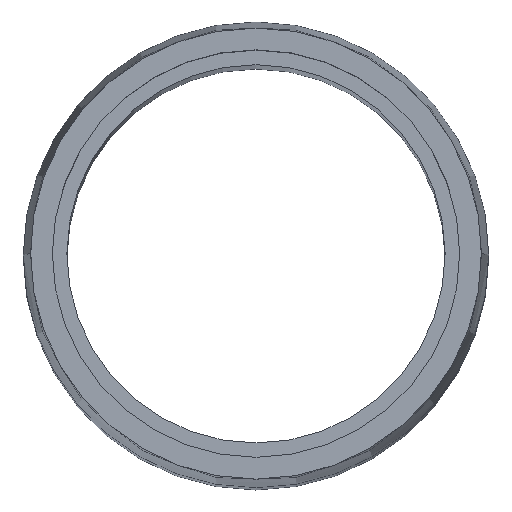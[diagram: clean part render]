
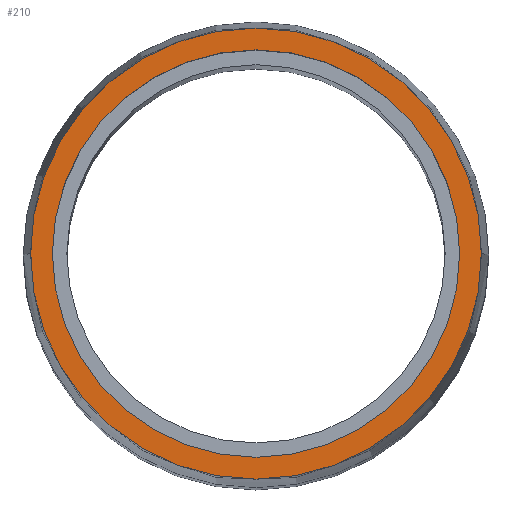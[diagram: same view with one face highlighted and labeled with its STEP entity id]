
A CAD part, top view. The second image highlights one B-rep face of the part: STEP entity #210.
In plain terms, the highlighted planar face has unit normal (0, 0, 1).
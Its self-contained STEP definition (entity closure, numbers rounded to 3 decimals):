
#29 = EDGE_CURVE ( 'NONE', #269, #317, #353, .T. ) ;
#43 = CARTESIAN_POINT ( 'NONE',  ( -14., 0., 95. ) ) ;
#48 = PLANE ( 'NONE',  #113 ) ;
#76 = ORIENTED_EDGE ( 'NONE', *, *, #368, .F. ) ;
#80 = EDGE_CURVE ( 'NONE', #317, #269, #178, .T. ) ;
#97 = DIRECTION ( 'NONE',  ( 1., 0., 0. ) ) ;
#113 = AXIS2_PLACEMENT_3D ( 'NONE', #372, #265, #295 ) ;
#114 = FACE_OUTER_BOUND ( 'NONE', #142, .T. ) ;
#119 = ORIENTED_EDGE ( 'NONE', *, *, #29, .T. ) ;
#142 = EDGE_LOOP ( 'NONE', ( #211, #119 ) ) ;
#148 = VERTEX_POINT ( 'NONE', #43 ) ;
#155 = AXIS2_PLACEMENT_3D ( 'NONE', #159, #191, #228 ) ;
#159 = CARTESIAN_POINT ( 'NONE',  ( 0., 0., 95. ) ) ;
#164 = DIRECTION ( 'NONE',  ( 1., 0., 0. ) ) ;
#178 = CIRCLE ( 'NONE', #391, 15.5 ) ;
#191 = DIRECTION ( 'NONE',  ( 0., 0., 1. ) ) ;
#197 = CARTESIAN_POINT ( 'NONE',  ( -15.5, 0., 95. ) ) ;
#210 = ADVANCED_FACE ( 'NONE', ( #344, #114 ), #48, .T. ) ;
#211 = ORIENTED_EDGE ( 'NONE', *, *, #80, .T. ) ;
#216 = CIRCLE ( 'NONE', #155, 14. ) ;
#225 = DIRECTION ( 'NONE',  ( 1., 0., 0. ) ) ;
#228 = DIRECTION ( 'NONE',  ( 1., 0., 0. ) ) ;
#245 = EDGE_LOOP ( 'NONE', ( #281, #76 ) ) ;
#260 = DIRECTION ( 'NONE',  ( 0., 0., 1. ) ) ;
#265 = DIRECTION ( 'NONE',  ( 0., 0., 1. ) ) ;
#269 = VERTEX_POINT ( 'NONE', #410 ) ;
#281 = ORIENTED_EDGE ( 'NONE', *, *, #337, .F. ) ;
#283 = AXIS2_PLACEMENT_3D ( 'NONE', #398, #441, #225 ) ;
#295 = DIRECTION ( 'NONE',  ( 1., 0., 0. ) ) ;
#309 = VERTEX_POINT ( 'NONE', #374 ) ;
#315 = AXIS2_PLACEMENT_3D ( 'NONE', #375, #419, #97 ) ;
#317 = VERTEX_POINT ( 'NONE', #197 ) ;
#327 = CIRCLE ( 'NONE', #315, 14. ) ;
#337 = EDGE_CURVE ( 'NONE', #309, #148, #216, .T. ) ;
#344 = FACE_BOUND ( 'NONE', #245, .T. ) ;
#353 = CIRCLE ( 'NONE', #283, 15.5 ) ;
#368 = EDGE_CURVE ( 'NONE', #148, #309, #327, .T. ) ;
#371 = CARTESIAN_POINT ( 'NONE',  ( 0., 0., 95. ) ) ;
#372 = CARTESIAN_POINT ( 'NONE',  ( 0., 0., 95. ) ) ;
#374 = CARTESIAN_POINT ( 'NONE',  ( 14., 0., 95. ) ) ;
#375 = CARTESIAN_POINT ( 'NONE',  ( 0., 0., 95. ) ) ;
#391 = AXIS2_PLACEMENT_3D ( 'NONE', #371, #260, #164 ) ;
#398 = CARTESIAN_POINT ( 'NONE',  ( 0., 0., 95. ) ) ;
#410 = CARTESIAN_POINT ( 'NONE',  ( 15.5, 0., 95. ) ) ;
#419 = DIRECTION ( 'NONE',  ( 0., 0., 1. ) ) ;
#441 = DIRECTION ( 'NONE',  ( 0., 0., 1. ) ) ;
